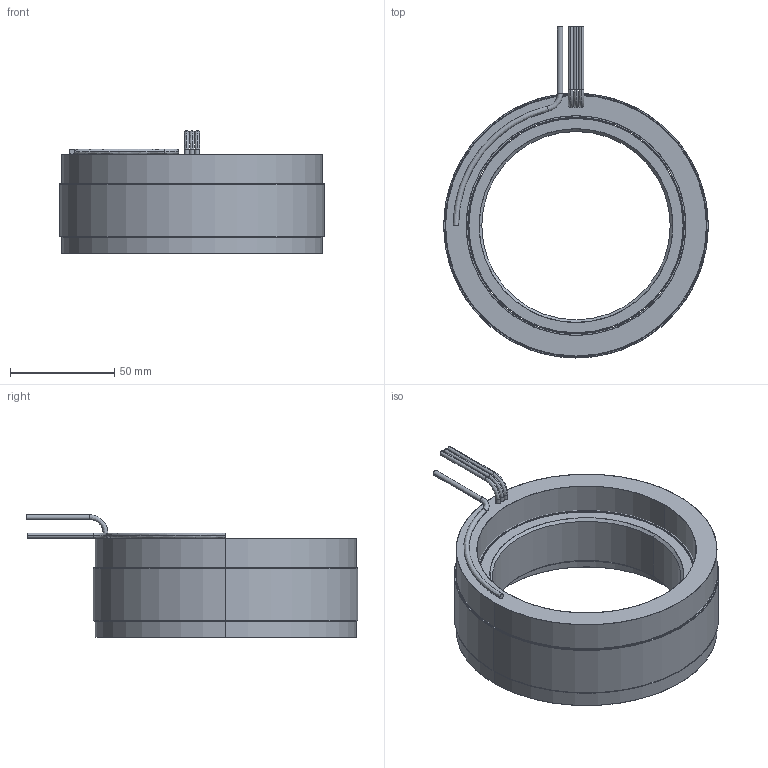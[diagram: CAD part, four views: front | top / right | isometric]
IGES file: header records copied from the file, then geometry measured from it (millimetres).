
Start section: SolidWorks IGES file using analytic representation for surfaces
Global section: file name: \\fs01.aveox.local\user documents\eng\My Documents\6100396-XX STATOR AND ROTOR SET, UT-5000-32P3, SENSORLESS\6100396-03.IGS; native system: SolidWorks 2016; preprocessor: SolidWorks 2016; author: eng; date: 201215.100857; units: inch
Bounding box: 127 x 159.26 x 58.8 mm (x, y, z)
Surface area: 122002.9 mm2 (no closed solid volume)
Topology: 0 solids, 0 shells, 75 faces, 2236 edges, 2236 vertices
Faces by surface type: revolution 46, bspline 29
